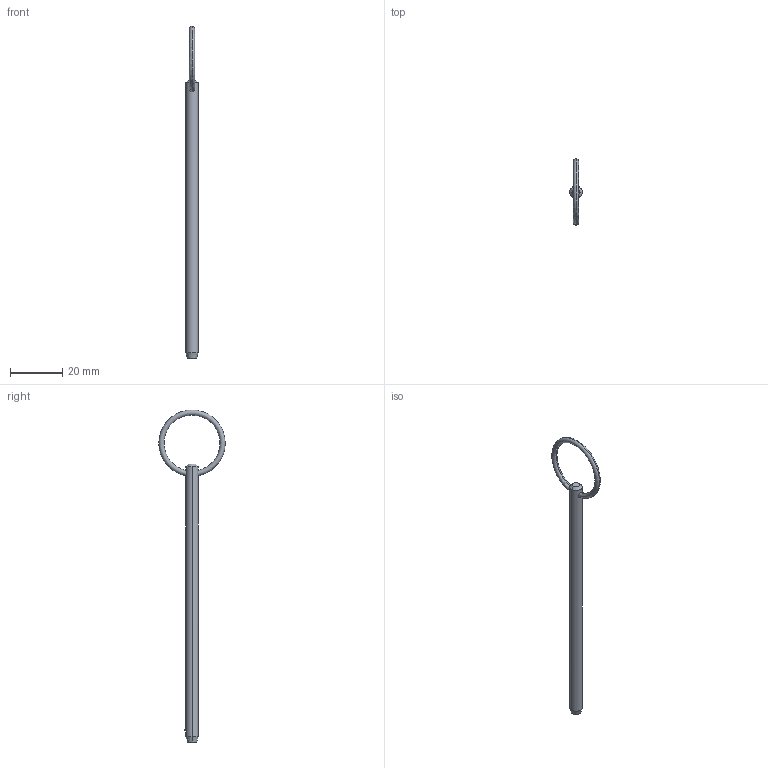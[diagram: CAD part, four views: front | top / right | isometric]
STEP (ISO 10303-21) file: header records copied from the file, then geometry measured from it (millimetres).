
FILE_DESCRIPTION (( 'STEP AP203' ), '1' );
FILE_NAME ('P1250.018-380.step', '2019-07-29T19:37:21', ( '' ), ( '' ), 'SwSTEP 2.0', 'SolidWorks 2017', '' );
FILE_SCHEMA (( 'CONFIG_CONTROL_DESIGN' ));
Length unit declared in the file: millimetre
Products named in the file (1): P1250.018-380
Bounding box: 4.76 x 25.4 x 126.98 mm (x, y, z)
Volume: 2094.5 mm3; surface area: 2033.1 mm2
Topology: 1 solids, 1 shells, 12 faces, 28 edges, 17 vertices
Faces by surface type: cone 4, torus 2, sphere 2, cylinder 2, plane 2
Entity records: 471 total; most frequent: CARTESIAN_POINT 138, DIRECTION 56, ORIENTED_EDGE 48, AXIS2_PLACEMENT_3D 25, EDGE_CURVE 24, VERTEX_POINT 15, EDGE_LOOP 15, FACE_OUTER_BOUND 12
